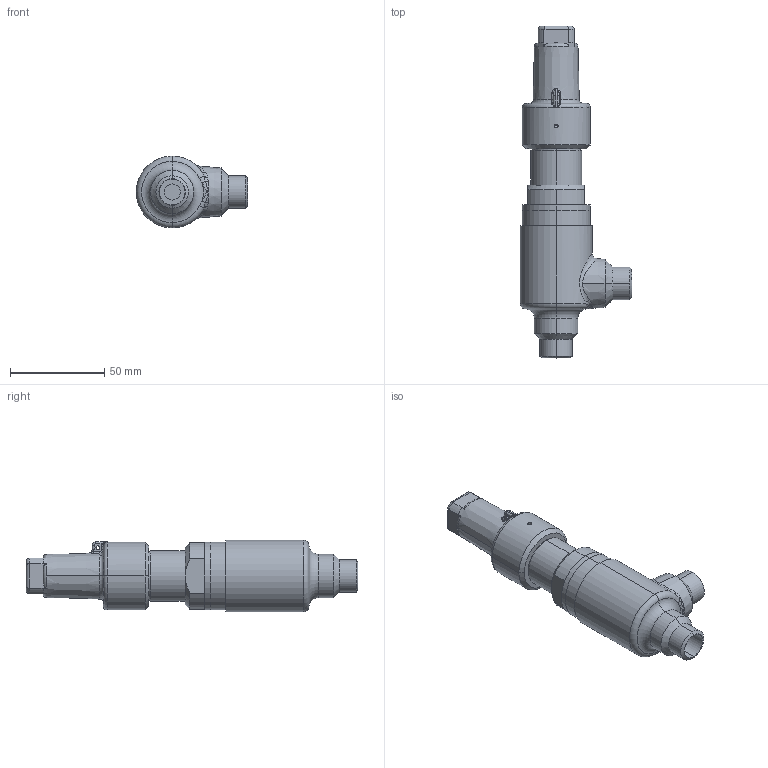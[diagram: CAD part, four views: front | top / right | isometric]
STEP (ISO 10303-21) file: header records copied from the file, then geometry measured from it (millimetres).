
FILE_DESCRIPTION (( 'STEP AP214' ), '1' );
FILE_NAME ('UVAB 41400c08-DN10_R1 .STEP', '2010-09-13T05:55:21', ( 'Eckhard Grams' ), ( 'AWP Kälte Klima Armaturen GmbH' ), 'SwSTEP 2.0', 'SolidWorks 2002296', '' );
FILE_SCHEMA (( 'AUTOMOTIVE_DESIGN' ));
Length unit declared in the file: millimetre
Products named in the file (4): UVAB 41400c08-DN10_R1  ; Gehäuse41200E08-DN10_PS40_R1_Standard; Deckel 44353-08-DN10-15_PS40_Standard; Kappe 36302-10_DN6-15 (M27x1)_Standard
Assembly tree (3 placements, depth 2):
  UVAB 41400c08-DN10_R1  
    Gehäuse41200E08-DN10_PS40_R1_Standard
    Kappe 36302-10_DN6-15 (M27x1)_Standard
    Deckel 44353-08-DN10-15_PS40_Standard
Bounding box: 59 x 175.75 x 38 mm (x, y, z)
Volume: 101839.3 mm3; surface area: 35695.2 mm2
Topology: 3 solids, 3 shells, 198 faces, 441 edges, 262 vertices
Faces by surface type: cylinder 77, plane 40, cone 34, torus 28, bspline 19
Entity records: 18964 total; most frequent: CARTESIAN_POINT 13820, DIRECTION 967, ORIENTED_EDGE 882, EDGE_CURVE 441, AXIS2_PLACEMENT_3D 416, VERTEX_POINT 262, CIRCLE 231, EDGE_LOOP 221
